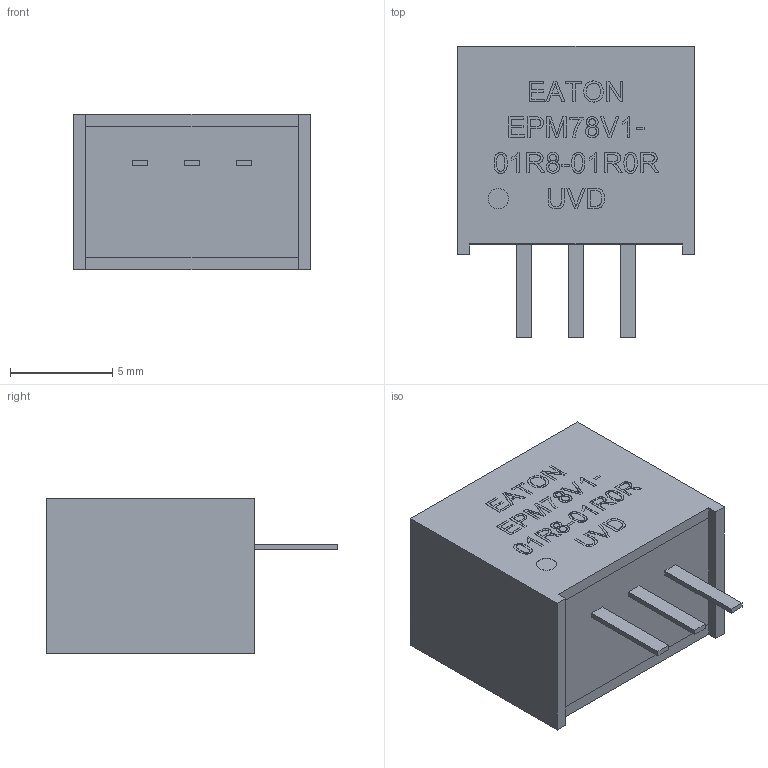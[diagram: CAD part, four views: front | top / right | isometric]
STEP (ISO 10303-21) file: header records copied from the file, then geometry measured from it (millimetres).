
FILE_DESCRIPTION (( 'STEP AP214' ), '1' );
FILE_NAME ('RBT05W.STEP', '2024-12-06T03:10:56', ( '' ), ( '' ), 'SwSTEP 2.0', 'SolidWorks 2022', '' );
FILE_SCHEMA (( 'AUTOMOTIVE_DESIGN' ));
Length unit declared in the file: millimetre
Products named in the file (6): RBT05W-A^RBT05W; RBT05W; RBT05W-3^RBT05W-A_RBT05W; RBT05W-4^RBT05W-A_RBT05W; RBT05W-2^RBT05W-A_RBT05W; RBT05W-1^RBT05W-A_RBT05W
Assembly tree (5 placements, depth 3):
  RBT05W
    RBT05W-A^RBT05W
      RBT05W-1^RBT05W-A_RBT05W
      RBT05W-2^RBT05W-A_RBT05W
      RBT05W-3^RBT05W-A_RBT05W
      RBT05W-4^RBT05W-A_RBT05W
Bounding box: 11.6 x 14.3 x 7.6 mm (x, y, z)
Volume: 862.2 mm3; surface area: 595.2 mm2
Topology: 4 solids, 4 shells, 363 faces, 942 edges, 628 vertices
Faces by surface type: plane 232, bspline 129, cylinder 2
Entity records: 12159 total; most frequent: CARTESIAN_POINT 3611, ORIENTED_EDGE 1884, DIRECTION 1182, EDGE_CURVE 942, VECTOR 680, LINE 680, VERTEX_POINT 628, EDGE_LOOP 404
